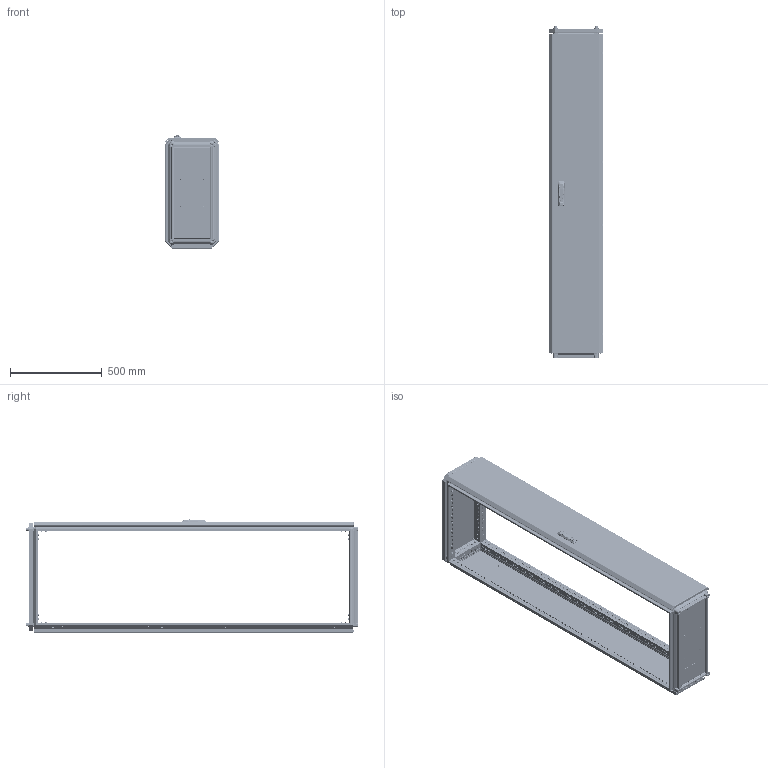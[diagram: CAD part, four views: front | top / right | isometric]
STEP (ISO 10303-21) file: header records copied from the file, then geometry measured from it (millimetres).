
FILE_DESCRIPTION (( 'STEP AP203' ), '1' );
FILE_NAME ('MA1.000.030618.10.00 AleSta1836 Øêàô AleSta 300õ600õ1800.STEP', '2024-08-23T07:21:33', ( '' ), ( '' ), 'SwSTEP 2.0', 'SolidWorks 2021', '' );
FILE_SCHEMA (( 'CONFIG_CONTROL_DESIGN' ));
Length unit declared in the file: millimetre
Products named in the file (50): Âèíò ñ âí. øåñòèãðàííèêîì M12 DIN912_•30; MA1.101.060620.10.00 Êðûøà 600x600_300å600; MA1.102.060620.00.01 Ïðîôèëü âåðòèêàëüíûé ñâàðíîé_03 L=1698 (‚=1800); 7380-2 ISO Âèíòû ñ ïîëóêðóãëîé ãîëîâêîé ñ ôëàíöåì ñ âíóòðåííèì øåñòèãðàííèêîì Ì4õ10; MA1.102.060620.00.00 AleSta-VG2000 Ñòîéêè âåðòèêàëüíûå, Â=2000ìì  (4øò)_  300å600; Øàéáà ñòîïîðíàÿ ñ íàðóæíûìè çóáöàìè SCHNORR, òèï VS öèíêîâûå õëîïüÿ Ì6 O6,4 ART 88121_Œ6; MA1.101.060620.20.00 Íèæíÿÿ ïàíåëü 600õ600_300å600; Áîëò øåñòèãðàííûé Ì5õ12 DIN 933, êëàññ ïðî÷íîñòè 8.8, îöèíêîâàííàÿ ñòàëü; MA1.200.060620.31.04 ðèãåëü çàìêà äâåðè; Ïðîáêà ïëàñòèêîâàÿ óíèâåðñàëüíàÿ ïîä îòâåðñòèå 4,5 ìì, ñåðèÿ ST, öâåò áåñöâåòíûé – ST4,5; MA1.101.060620.00.02 Ïðîôèëü ïîïåðå÷íûé ñâàðíîé_01 L=498 (˜=600); 諘蜱齁罻 022 瀁錒瀔隮; ﾇﾀﾊﾋﾅﾏﾊﾀ ﾃﾀﾅﾗﾍﾀﾟ ﾘﾅﾑﾒﾈﾃﾐﾀﾍﾍﾀﾟ ﾑ ﾓﾌﾅﾍﾜﾘﾅﾍﾍﾛﾌ ﾁﾎﾐﾒﾎﾌ M4 X 11 (0.5-2.5 ﾌﾌ) HEX U-S ﾖﾈﾍﾊ; MA1.200.060620.31.02 Ðåéêà íà äâåðü âåðòèêàëüíàÿ Â = 2000_‚=1800; Âèíò_ðåçüáîâûäàâëèâàþùèé_Ì5õ12_DIN 7500E_Œ5å12; MA1.101.060620.10.01 Ïîëîòíî êðûøè 600õ600_300x600; MA1.200.060620.31.00 Äâåðü ñïëîøíàÿ äëÿ øêàôîâ ALESTA ÂõØ 2000õ600_1800å300; MA1.101.060620.20.01 Ïîëîòíî íèæíåé ïàíåëè 600õ600_300å600; äåðæàòåëü_êðóãëîé_òÿãèRG002-RG1010-2-i-RG1010-3-.stp; MA1.101.060620.00.00 AleSta-RB66 Êîìïëåêò êðûøà è îñíîâàíèå_  300x600; MA1.200.060620.31.05 Óãëîâîé óïîð äâåðíîé òÿãè; ﾘ琺矜 65ﾃ 019 ﾃﾎﾑﾒ 6402-70_12; ﾘ琺矜 01.019 ﾃﾎﾑﾒ11371-78_12; Øïèëüêà Ì6õ12_˜¯¨«ìª  Œ6å16; Øïèëüêà Ì6õ12_˜¯¨«ìª  Œ6å12; MA1.100.060620.00.01 Ñîåäèíèòåëü óãëîâîé_00; MA1.200.060620.11.01 Ïîëîòíî çàäíåé ïàíåëè 2000õ600_1800å300; Óïëîòíèòåëü ïàíåëè íèæíåé_300å600; Óïëîòíèòåëü ïàíåëè íèæíåé_   ‚=1800; Âèíò ñàìîíàðåçàþùèé ñ ïîòàéíîé ãîëîâêîé Ì5x14 DIN 7500 M TORX, êëàññ ïðî÷íîñòè 8.8, îöèíêîâàííàÿ ñòàëü_Œ5å14; Ãàéêà ñàìîêîíòðÿùàÿñÿ ñ íåéëîíîâîé âñòàâêîé Ì6 DIN 985, êëàññ ïðî÷íîñòè 8, îöèíêîâàííàÿ ñòàëü_Œ6; Îñü ïåòëè 4õ52_‚¨­â A.M4x0,5x40 ƒŽ‘’ 11644-75; MA1.200.060620.11.00 Ïàíåëü çàäíÿÿ, äëÿ øêàôîâ AleSta, 2000x600_1800å300; Íàâåñêà íà êîðïóñ ïîä êëåïêó; Ïåòëÿ íà äâåðü ï-îáðàçíàÿ; Âèíò_ðåçüáîâûäàâëèâàþùèé_Ì5õ12_DIN 7500E_00; MA1.200.060620.30.00 AleSta-D20M600 Äâåðü ñïëîøíàÿ äëÿ øêàôîâ ALESTA ÂõØ 2000õ600_1800å300; êðåïëåíèå_êðóãëîé_òÿãè_RG1020-1.stp; Ãàéêà ñàìîêîíòðÿùàÿñÿ ñ íåéëîíîâîé âñòàâêîé Ì6 DIN 985, êëàññ ïðî÷íîñòè 8, îöèíêîâàííàÿ ñòàëü_Œ5; MA1.200.060620.31.03 Ðåéêà íà äâåðü ãîðèçîíòàëüíàÿ Ø = 600_˜=300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
Assembly tree (329 placements, depth 4):
  Ïðîáêà ïëàñòèêîâàÿ óíèâåðñàëüíàÿ ïîä îòâåðñòèå 4,5 ìì, ñåðèÿ ST, öâåò áåñöâåòíûé – ST4,5
  MA1.000.030618.10.00 AleSta1836 Øêàô AleSta 300õ600õ1800
    MA1.101.060620.00.00 AleSta-RB66 Êîìïëåêò êðûøà è îñíîâàíèå_  300x600
      MA1.101.060620.00.02 Ïðîôèëü ïîïåðå÷íûé ñâàðíîé_01 L=498 (˜=600)  x4
      MA1.101.060620.00.02 Ïðîôèëü ïîïåðå÷íûé ñâàðíîé_03 L=198 (˜=300)  x4
      MA1.101.060620.10.00 Êðûøà 600x600_300å600
        MA1.101.060620.10.01 Ïîëîòíî êðûøè 600õ600_300x600
        Øïèëüêà Ì6õ12_˜¯¨«ìª  Œ6å12  x4
        Óïëîòíèòåëü ïàíåëè íèæíåé_300å600
      MA1.101.060620.20.00 Íèæíÿÿ ïàíåëü 600õ600_300å600
        MA1.101.060620.20.01 Ïîëîòíî íèæíåé ïàíåëè 600õ600_300å600
        ﾇﾀﾊﾋﾅﾏﾊﾀ ﾃﾀﾅﾗﾍﾀﾟ ﾘﾅﾑﾒﾈﾃﾐﾀﾍﾍﾀﾟ ﾑ ﾓﾌﾅﾍﾜﾘﾅﾍﾍﾛﾌ ﾁﾎﾐﾒﾎﾌ M4 X 11 (0.5-2.5 ﾌﾌ) HEX U-S ﾖﾈﾍﾊ  x4
        MA1.101.060620.20.02 Çàêðûòèå íèæíåé ïàíåëè 600õ600_300x600  x2
        7380-2 ISO Âèíòû ñ ïîëóêðóãëîé ãîëîâêîé ñ ôëàíöåì ñ âíóòðåííèì øåñòèãðàííèêîì Ì4õ10  x4
      Âèíò_ðåçüáîâûäàâëèâàþùèé_Ì5õ12_DIN 7500E_Œ5å12  x8
      MA1.100.060620.00.01 Ñîåäèíèòåëü óãëîâîé_00  x8
      Âèíò ñ âí. øåñòèãðàííèêîì M12 DIN912_•30  x4
      Âèíò ðåçüáîâûäàâëèâàþùèé Ì6õ12 DIN 7500E_Œ6å10  x96
      ﾘ琺矜 01.019 ﾃﾎﾑﾒ11371-78_12  x4
      ﾘ琺矜 65ﾃ 019 ﾃﾎﾑﾒ 6402-70_12  x4
      Øàéáà ñòîïîðíàÿ ñ íàðóæíûìè çóáöàìè SCHNORR, òèï VS öèíêîâûå õëîïüÿ Ì6 O6,4 ART 88121_Œ6  x80
    MA1.102.060620.00.00 AleSta-VG2000 Ñòîéêè âåðòèêàëüíûå, Â=2000ìì  (4øò)_  300å600
      MA1.102.060620.00.01 Ïðîôèëü âåðòèêàëüíûé ñâàðíîé_03 L=1698 (‚=1800)  x4
    MA1.200.060620.10.00 AleSta-PR206  Ïàíåëü çàäíÿÿ, äëÿ øêàôîâ ALESTA, 2000 x 600_1800å300
      MA1.200.060620.11.00 Ïàíåëü çàäíÿÿ, äëÿ øêàôîâ AleSta, 2000x600_1800å300
        MA1.200.060620.11.01 Ïîëîòíî çàäíåé ïàíåëè 2000õ600_1800å300
        Óïëîòíèòåëü ïàíåëè íèæíåé_   ‚=1800
        Øïèëüêà Ì6õ12_˜¯¨«ìª  Œ6å12  x4
      Âèíò ñàìîíàðåçàþùèé ñ ïîòàéíîé ãîëîâêîé Ì5x14 DIN 7500 M TORX, êëàññ ïðî÷íîñòè 8.8, îöèíêîâàííàÿ ñòàëü_Œ5å14  x8
    MA1.200.060620.30.00 AleSta-D20M600 Äâåðü ñïëîøíàÿ äëÿ øêàôîâ ALESTA ÂõØ 2000õ600_1800å300
      MA1.200.060620.31.00 Äâåðü ñïëîøíàÿ äëÿ øêàôîâ ALESTA ÂõØ 2000õ600_1800å300
        MA1.200.060620.31.01 Ïîëîòíî äâåðè ñïëîøíîé 2000õ600_1800å300
        Óïëîòíèòåëü ïàíåëè íèæíåé_   ‚=1800
        Øïèëüêà Ì6õ12_˜¯¨«ìª  Œ6å20  x12
        Øïèëüêà Ì6õ12_˜¯¨«ìª  Œ6å16  x4
        Ïåòëÿ íà äâåðü ï-îáðàçíàÿ  x4
      MA1.200.060620.31.03 Ðåéêà íà äâåðü ãîðèçîíòàëüíàÿ Ø = 600_˜=300  x2
      諘蜱齁罻 022 瀁錒瀔隮  x4
      MA1.200.060620.31.02 Ðåéêà íà äâåðü âåðòèêàëüíàÿ Â = 2000_‚=1800  x2
      äåðæàòåëü_êðóãëîé_òÿãèRG002-RG1010-2-i-RG1010-3-.stp  x2
      òÿãà_lg001-2.STEP_‚ =1800  x2
      êðåïëåíèå_êðóãëîé_òÿãè_RG1020-1.stp  x2
      MS463-2-3(1)
      Ãàéêà ñàìîêîíòðÿùàÿñÿ ñ íåéëîíîâîé âñòàâêîé Ì6 DIN 985, êëàññ ïðî÷íîñòè 8, îöèíêîâàííàÿ ñòàëü_Œ6  x12
      Ãàéêà ñàìîêîíòðÿùàÿñÿ ñ íåéëîíîâîé âñòàâêîé Ì6 DIN 985, êëàññ ïðî÷íîñòè 8, îöèíêîâàííàÿ ñòàëü_Œ5  x2
      Áîëò øåñòèãðàííûé Ì5õ12 DIN 933, êëàññ ïðî÷íîñòè 8.8, îöèíêîâàííàÿ ñòàëü  x2
      MA1.200.060620.31.04 ðèãåëü çàìêà äâåðè
      MA1.200.060620.31.05 Óãëîâîé óïîð äâåðíîé òÿãè  x2
      Âèíò_ðåçüáîâûäàâëèâàþùèé_Ì5õ12_DIN 7500E_00  x2
      Íàâåñêà íà êîðïóñ ïîä êëåïêó  x4
      Îñü ïåòëè 4õ52_‚¨­â A.M4x0,5x40 ƒŽ‘’ 11644-75  x4
      Âèíò ñàìîíàðåçàþùèé ñ ïîòàéíîé ãîëîâêîé Ì5x14 DIN 7500 M TORX, êëàññ ïðî÷íîñòè 8.8, îöèíêîâàííàÿ ñòàëü_Œ5å12  x8
Bounding box: 292 x 1810.9 x 616.8 mm (x, y, z)
Volume: 6278018.7 mm3; surface area: 7178561.7 mm2
Topology: 356 solids, 370 shells, 22475 faces, 57658 edges, 36032 vertices
Faces by surface type: plane 13502, cylinder 6340, bspline 869, cone 837, torus 829, sphere 98
Entity records: 237642 total; most frequent: CARTESIAN_POINT 77757, ORIENTED_EDGE 30506, DIRECTION 30008, EDGE_CURVE 15270, AXIS2_PLACEMENT_3D 10330, VERTEX_POINT 9485, LINE 9348, VECTOR 9348
